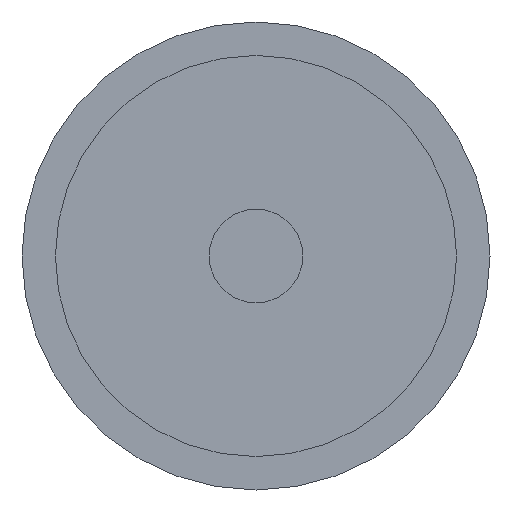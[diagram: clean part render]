
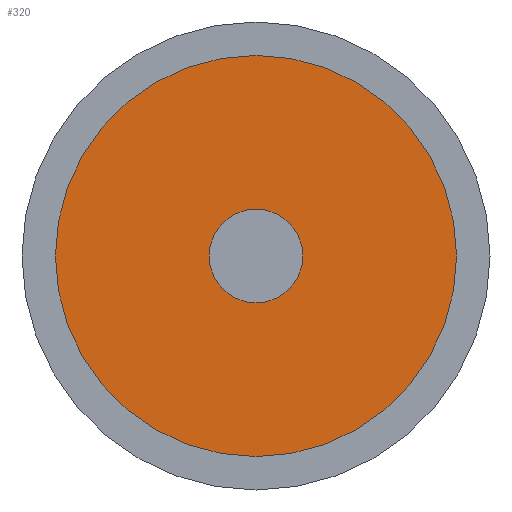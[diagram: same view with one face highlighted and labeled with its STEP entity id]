
A CAD part, left-side view. The second image highlights one B-rep face of the part: STEP entity #320.
In plain terms, the highlighted planar face has unit normal (-1, 0, 0).
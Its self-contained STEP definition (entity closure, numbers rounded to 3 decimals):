
#164 = CYLINDRICAL_SURFACE('',#165,30.);
#165 = AXIS2_PLACEMENT_3D('',#166,#167,#168);
#166 = CARTESIAN_POINT('',(868.,50.,1100.));
#167 = DIRECTION('',(1.,0.,0.));
#168 = DIRECTION('',(-0.,0.,1.));
#236 = VERTEX_POINT('',#237);
#237 = CARTESIAN_POINT('',(868.,50.,1130.));
#258 = EDGE_CURVE('',#236,#236,#259,.T.);
#259 = SURFACE_CURVE('',#260,(#265,#272),.PCURVE_S1.);
#260 = CIRCLE('',#261,30.);
#261 = AXIS2_PLACEMENT_3D('',#262,#263,#264);
#262 = CARTESIAN_POINT('',(868.,50.,1100.));
#263 = DIRECTION('',(1.,0.,0.));
#264 = DIRECTION('',(-0.,0.,1.));
#265 = PCURVE('',#164,#266);
#266 = DEFINITIONAL_REPRESENTATION('',(#267),#271);
#267 = LINE('',#268,#269);
#268 = CARTESIAN_POINT('',(0.,0.));
#269 = VECTOR('',#270,1.);
#270 = DIRECTION('',(1.,0.));
#271 = ( GEOMETRIC_REPRESENTATION_CONTEXT(2) 
PARAMETRIC_REPRESENTATION_CONTEXT() REPRESENTATION_CONTEXT('2D SPACE',''
  ) );
#272 = PCURVE('',#273,#278);
#273 = PLANE('',#274);
#274 = AXIS2_PLACEMENT_3D('',#275,#276,#277);
#275 = CARTESIAN_POINT('',(868.,50.,1100.));
#276 = DIRECTION('',(1.,0.,0.));
#277 = DIRECTION('',(-0.,0.,1.));
#278 = DEFINITIONAL_REPRESENTATION('',(#279),#283);
#279 = CIRCLE('',#280,30.);
#280 = AXIS2_PLACEMENT_2D('',#281,#282);
#281 = CARTESIAN_POINT('',(0.,0.));
#282 = DIRECTION('',(1.,0.));
#283 = ( GEOMETRIC_REPRESENTATION_CONTEXT(2) 
PARAMETRIC_REPRESENTATION_CONTEXT() REPRESENTATION_CONTEXT('2D SPACE',''
  ) );
#320 = ADVANCED_FACE('',(#321,#324),#273,.F.);
#321 = FACE_BOUND('',#322,.F.);
#322 = EDGE_LOOP('',(#323));
#323 = ORIENTED_EDGE('',*,*,#258,.T.);
#324 = FACE_BOUND('',#325,.F.);
#325 = EDGE_LOOP('',(#326));
#326 = ORIENTED_EDGE('',*,*,#327,.F.);
#327 = EDGE_CURVE('',#328,#328,#330,.T.);
#328 = VERTEX_POINT('',#329);
#329 = CARTESIAN_POINT('',(868.,50.,1107.));
#330 = SURFACE_CURVE('',#331,(#336,#343),.PCURVE_S1.);
#331 = CIRCLE('',#332,7.);
#332 = AXIS2_PLACEMENT_3D('',#333,#334,#335);
#333 = CARTESIAN_POINT('',(868.,50.,1100.));
#334 = DIRECTION('',(1.,0.,0.));
#335 = DIRECTION('',(-0.,0.,1.));
#336 = PCURVE('',#273,#337);
#337 = DEFINITIONAL_REPRESENTATION('',(#338),#342);
#338 = CIRCLE('',#339,7.);
#339 = AXIS2_PLACEMENT_2D('',#340,#341);
#340 = CARTESIAN_POINT('',(0.,0.));
#341 = DIRECTION('',(1.,0.));
#342 = ( GEOMETRIC_REPRESENTATION_CONTEXT(2) 
PARAMETRIC_REPRESENTATION_CONTEXT() REPRESENTATION_CONTEXT('2D SPACE',''
  ) );
#343 = PCURVE('',#344,#349);
#344 = CYLINDRICAL_SURFACE('',#345,7.);
#345 = AXIS2_PLACEMENT_3D('',#346,#347,#348);
#346 = CARTESIAN_POINT('',(865.,50.,1100.));
#347 = DIRECTION('',(1.,0.,0.));
#348 = DIRECTION('',(-0.,0.,1.));
#349 = DEFINITIONAL_REPRESENTATION('',(#350),#354);
#350 = LINE('',#351,#352);
#351 = CARTESIAN_POINT('',(0.,3.));
#352 = VECTOR('',#353,1.);
#353 = DIRECTION('',(1.,0.));
#354 = ( GEOMETRIC_REPRESENTATION_CONTEXT(2) 
PARAMETRIC_REPRESENTATION_CONTEXT() REPRESENTATION_CONTEXT('2D SPACE',''
  ) );
